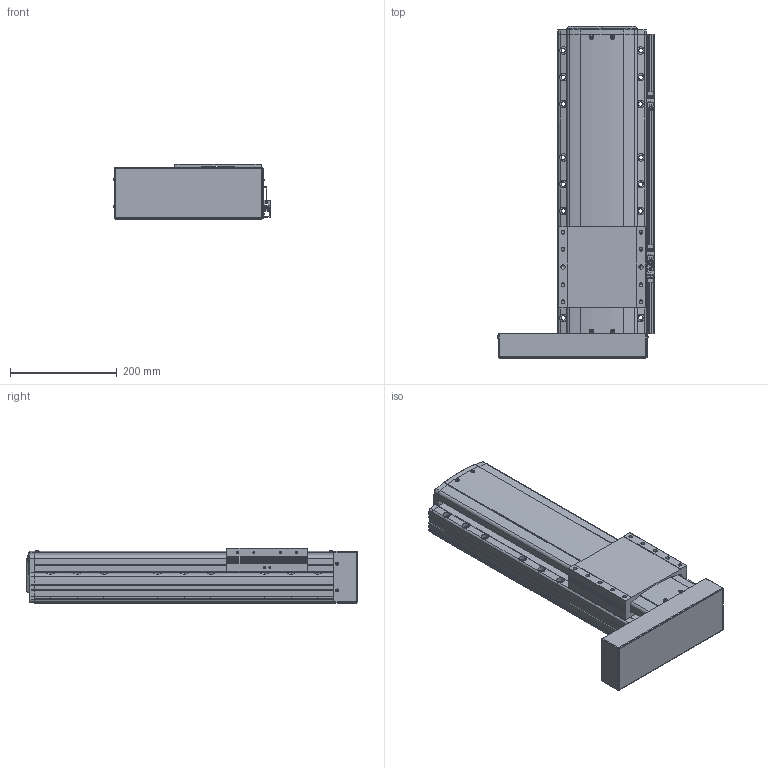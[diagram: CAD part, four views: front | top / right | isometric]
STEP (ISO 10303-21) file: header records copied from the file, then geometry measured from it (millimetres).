
FILE_DESCRIPTION(('STEP AP214'),'1');
FILE_NAME('Z:/Web/3D/PSA165/STP/PSA165-300 (3D)/PSA165ㅁㅁ-300PL+3SR.stp','2014-06-23T09:29:07',(' '),(' '),'Spatial InterOp 3D',' ',' ');
FILE_SCHEMA(('automotive_design'));
Length unit declared in the file: millimetre
Products named in the file (41): 스크루 : Round - M4.0 x 12.0; RRCV-PA160; BASE; 스크루 : Round - M4.0 x 10.0; RN15; Screw 20; SLIDE; FRCV; MTPL; 스크루 : Round - M3.0 x 6.0; M3.0 x 6.0; SRL-16x17-360L; SGD-SAN150; EE-SX674; SBK-SX674-352; BHCS M4.0 x 10.0
Bounding box: 294.46 x 620.8 x 104 mm (x, y, z)
Volume: 9344110.7 mm3; surface area: 745863.7 mm2
Topology: 41 solids, 41 shells, 2448 faces, 6545 edges, 4209 vertices
Faces by surface type: plane 1435, cylinder 707, cone 201, sphere 64, bspline 25, torus 16
Entity records: 99133 total; most frequent: CARTESIAN_POINT 17013, DIRECTION 13043, ORIENTED_EDGE 12830, EDGE_CURVE 6415, LINE 4377, VECTOR 4377, AXIS2_PLACEMENT_3D 4333, VERTEX_POINT 4209
